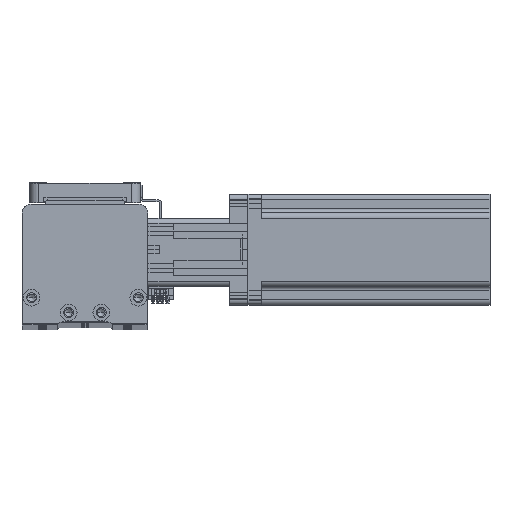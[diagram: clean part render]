
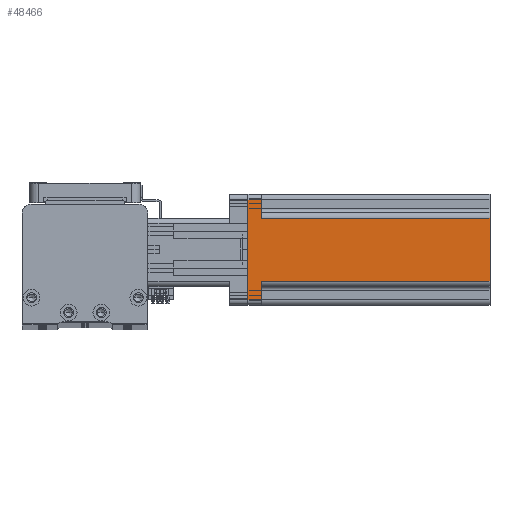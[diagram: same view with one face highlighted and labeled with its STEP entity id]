
A CAD part, top view. The second image highlights one B-rep face of the part: STEP entity #48466.
In plain terms, the highlighted planar face has unit normal (0, 0, 1) as drawn and (1, 0, 0) by its records, which use the part's own axes.
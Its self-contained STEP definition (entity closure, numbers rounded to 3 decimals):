
#1032 = CARTESIAN_POINT ( 'NONE',  ( 30., -30., 7.5 ) ) ;
#1108 = CARTESIAN_POINT ( 'NONE',  ( 30., -27., 0. ) ) ;
#1185 = VECTOR ( 'NONE', #49398, 1000. ) ;
#2196 = EDGE_LOOP ( 'NONE', ( #34288, #30345, #34739, #34273, #37746, #21302, #17728, #49172 ) ) ;
#2516 = VECTOR ( 'NONE', #13477, 1000. ) ;
#4199 = EDGE_CURVE ( 'NONE', #41401, #16363, #28257, .T. ) ;
#4522 = LINE ( 'NONE', #47594, #24375 ) ;
#5508 = VECTOR ( 'NONE', #30975, 1000. ) ;
#6250 = VECTOR ( 'NONE', #24834, 1000. ) ;
#6518 = CARTESIAN_POINT ( 'NONE',  ( 30., -27., 130.7 ) ) ;
#7059 = CARTESIAN_POINT ( 'NONE',  ( 30., 30., 7.5 ) ) ;
#7454 = LINE ( 'NONE', #39223, #47165 ) ;
#8424 = VECTOR ( 'NONE', #10515, 1000. ) ;
#9904 = EDGE_CURVE ( 'NONE', #40690, #17474, #35330, .T. ) ;
#10515 = DIRECTION ( 'NONE',  ( 0., 0., -1. ) ) ;
#11063 = DIRECTION ( 'NONE',  ( 0., 1., 0. ) ) ;
#12989 = VERTEX_POINT ( 'NONE', #49125 ) ;
#13477 = DIRECTION ( 'NONE',  ( 0., 0., 1. ) ) ;
#14862 = LINE ( 'NONE', #50774, #5508 ) ;
#15070 = EDGE_CURVE ( 'NONE', #39816, #42649, #14862, .T. ) ;
#15606 = CARTESIAN_POINT ( 'NONE',  ( 30., 27., 7.5 ) ) ;
#16363 = VERTEX_POINT ( 'NONE', #15606 ) ;
#17474 = VERTEX_POINT ( 'NONE', #20242 ) ;
#17715 = VECTOR ( 'NONE', #11063, 1000. ) ;
#17728 = ORIENTED_EDGE ( 'NONE', *, *, #4199, .F. ) ;
#19503 = DIRECTION ( 'NONE',  ( 0., 0., 1. ) ) ;
#20242 = CARTESIAN_POINT ( 'NONE',  ( 30., -27., 7.5 ) ) ;
#20261 = EDGE_CURVE ( 'NONE', #17474, #39816, #49331, .T. ) ;
#21203 = CARTESIAN_POINT ( 'NONE',  ( 30., 17., 7.5 ) ) ;
#21302 = ORIENTED_EDGE ( 'NONE', *, *, #32634, .T. ) ;
#23756 = DIRECTION ( 'NONE',  ( -1., 0., 0. ) ) ;
#24293 = CARTESIAN_POINT ( 'NONE',  ( 30., -17., 7.5 ) ) ;
#24375 = VECTOR ( 'NONE', #35403, 1000. ) ;
#24834 = DIRECTION ( 'NONE',  ( 0., -1., 0. ) ) ;
#25689 = CARTESIAN_POINT ( 'NONE',  ( 30., -30., 130.7 ) ) ;
#28257 = LINE ( 'NONE', #7059, #17715 ) ;
#30345 = ORIENTED_EDGE ( 'NONE', *, *, #48991, .T. ) ;
#30397 = AXIS2_PLACEMENT_3D ( 'NONE', #47484, #23756, #51461 ) ;
#30975 = DIRECTION ( 'NONE',  ( 0., 1., 0. ) ) ;
#32634 = EDGE_CURVE ( 'NONE', #42649, #16363, #34164, .T. ) ;
#32799 = LINE ( 'NONE', #25689, #1185 ) ;
#33185 = CARTESIAN_POINT ( 'NONE',  ( 30., 17., 130.7 ) ) ;
#33258 = EDGE_CURVE ( 'NONE', #12989, #37937, #32799, .T. ) ;
#34164 = LINE ( 'NONE', #37132, #2516 ) ;
#34273 = ORIENTED_EDGE ( 'NONE', *, *, #20261, .T. ) ;
#34288 = ORIENTED_EDGE ( 'NONE', *, *, #33258, .F. ) ;
#34739 = ORIENTED_EDGE ( 'NONE', *, *, #9904, .T. ) ;
#35330 = LINE ( 'NONE', #1032, #6250 ) ;
#35403 = DIRECTION ( 'NONE',  ( 0., 0., -1. ) ) ;
#37132 = CARTESIAN_POINT ( 'NONE',  ( 30., 27., 130.7 ) ) ;
#37746 = ORIENTED_EDGE ( 'NONE', *, *, #15070, .T. ) ;
#37937 = VERTEX_POINT ( 'NONE', #33185 ) ;
#39223 = CARTESIAN_POINT ( 'NONE',  ( 30., 17., 130.7 ) ) ;
#39543 = EDGE_CURVE ( 'NONE', #41401, #37937, #7454, .T. ) ;
#39816 = VERTEX_POINT ( 'NONE', #1108 ) ;
#40690 = VERTEX_POINT ( 'NONE', #24293 ) ;
#41401 = VERTEX_POINT ( 'NONE', #21203 ) ;
#42649 = VERTEX_POINT ( 'NONE', #46825 ) ;
#46825 = CARTESIAN_POINT ( 'NONE',  ( 30., 27., 0. ) ) ;
#47165 = VECTOR ( 'NONE', #19503, 1000. ) ;
#47448 = FACE_OUTER_BOUND ( 'NONE', #2196, .T. ) ;
#47484 = CARTESIAN_POINT ( 'NONE',  ( 30., -30., 130.7 ) ) ;
#47594 = CARTESIAN_POINT ( 'NONE',  ( 30., -17., 7.5 ) ) ;
#48466 = ADVANCED_FACE ( 'NONE', ( #47448 ), #50554, .F. ) ;
#48991 = EDGE_CURVE ( 'NONE', #12989, #40690, #4522, .T. ) ;
#49125 = CARTESIAN_POINT ( 'NONE',  ( 30., -17., 130.7 ) ) ;
#49172 = ORIENTED_EDGE ( 'NONE', *, *, #39543, .T. ) ;
#49331 = LINE ( 'NONE', #6518, #8424 ) ;
#49398 = DIRECTION ( 'NONE',  ( 0., 1., 0. ) ) ;
#50554 = PLANE ( 'NONE',  #30397 ) ;
#50774 = CARTESIAN_POINT ( 'NONE',  ( 30., -30., 0. ) ) ;
#51461 = DIRECTION ( 'NONE',  ( 0., 0., 1. ) ) ;
